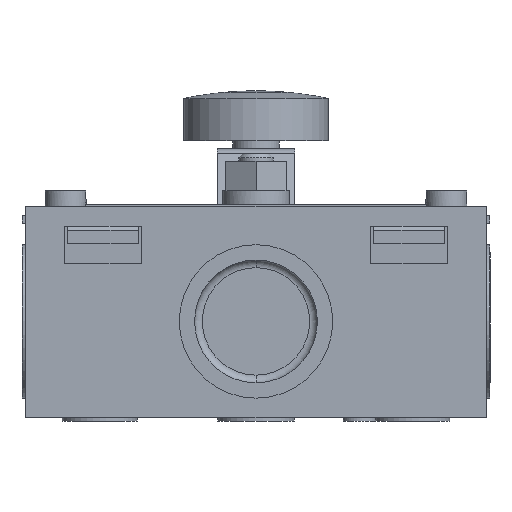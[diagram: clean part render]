
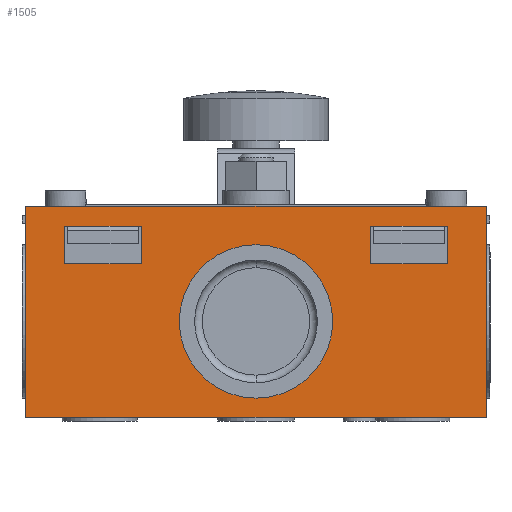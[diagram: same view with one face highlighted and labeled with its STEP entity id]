
A CAD part, front view. The second image highlights one B-rep face of the part: STEP entity #1505.
In plain terms, the highlighted planar face has unit normal (0, -1, 0).
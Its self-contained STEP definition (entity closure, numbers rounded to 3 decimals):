
#623 = AXIS2_PLACEMENT_3D ( 'NONE', #8462, #8463, #8464 ) ;
#626 = FACE_OUTER_BOUND ( 'NONE', #9149, .T. ) ;
#627 = FACE_BOUND ( 'NONE', #9152, .T. ) ;
#633 = FACE_BOUND ( 'NONE', #9151, .T. ) ;
#640 = FACE_BOUND ( 'NONE', #9150, .T. ) ;
#700 = VECTOR ( 'NONE', #3602, 1000. ) ;
#712 = VECTOR ( 'NONE', #3479, 1000. ) ;
#1505 = ADVANCED_FACE ( 'NONE', ( #626, #640, #633, #627 ), #8461, .F. ) ;
#3477 = LINE ( 'NONE', #3478, #712 ) ;
#3478 = CARTESIAN_POINT ( 'NONE',  ( -30., -83.5, -13.75 ) ) ;
#3479 = DIRECTION ( 'NONE',  ( 1., 0., 0. ) ) ;
#3600 = LINE ( 'NONE', #3601, #700 ) ;
#3601 = CARTESIAN_POINT ( 'NONE',  ( -30., -83.5, -13.75 ) ) ;
#3602 = DIRECTION ( 'NONE',  ( 0., 0., -1. ) ) ;
#3608 = CARTESIAN_POINT ( 'NONE',  ( 0., -83.5, -1.25 ) ) ;
#3636 = LINE ( 'NONE', #3637, #8075 ) ;
#3637 = CARTESIAN_POINT ( 'NONE',  ( -30., -83.5, 13.75 ) ) ;
#3638 = DIRECTION ( 'NONE',  ( -1., 0., 0. ) ) ;
#3639 = LINE ( 'NONE', #3640, #8059 ) ;
#3640 = CARTESIAN_POINT ( 'NONE',  ( 30., -83.5, -13.75 ) ) ;
#3641 = DIRECTION ( 'NONE',  ( 0., 0., 1. ) ) ;
#3642 = LINE ( 'NONE', #3643, #8074 ) ;
#3643 = CARTESIAN_POINT ( 'NONE',  ( 24.95, -83.5, 11.15 ) ) ;
#3644 = DIRECTION ( 'NONE',  ( 0., 0., -1. ) ) ;
#3645 = LINE ( 'NONE', #3646, #8080 ) ;
#3646 = CARTESIAN_POINT ( 'NONE',  ( 24.95, -83.5, 11.15 ) ) ;
#3647 = DIRECTION ( 'NONE',  ( -1., 0., 0. ) ) ;
#3648 = LINE ( 'NONE', #3649, #8071 ) ;
#3649 = CARTESIAN_POINT ( 'NONE',  ( 24.95, -83.5, 6.25 ) ) ;
#3650 = DIRECTION ( 'NONE',  ( -1., 0., 0. ) ) ;
#3651 = LINE ( 'NONE', #3652, #8090 ) ;
#3652 = CARTESIAN_POINT ( 'NONE',  ( -24.95, -83.5, 11.15 ) ) ;
#3653 = DIRECTION ( 'NONE',  ( 0., 0., -1. ) ) ;
#3654 = LINE ( 'NONE', #3655, #8076 ) ;
#3655 = CARTESIAN_POINT ( 'NONE',  ( 14.95, -83.5, 11.15 ) ) ;
#3656 = DIRECTION ( 'NONE',  ( 0., 0., -1. ) ) ;
#3657 = LINE ( 'NONE', #3658, #8040 ) ;
#3658 = CARTESIAN_POINT ( 'NONE',  ( -24.95, -83.5, 6.25 ) ) ;
#3659 = DIRECTION ( 'NONE',  ( 1., 0., 0. ) ) ;
#3660 = LINE ( 'NONE', #3661, #8091 ) ;
#3661 = CARTESIAN_POINT ( 'NONE',  ( -24.95, -83.5, 11.15 ) ) ;
#3662 = DIRECTION ( 'NONE',  ( 1., 0., 0. ) ) ;
#3663 = LINE ( 'NONE', #3664, #8070 ) ;
#3664 = CARTESIAN_POINT ( 'NONE',  ( -14.95, -83.5, 11.15 ) ) ;
#3665 = DIRECTION ( 'NONE',  ( 0., 0., -1. ) ) ;
#3666 = DIRECTION ( 'NONE',  ( 0., -1., 0. ) ) ;
#3667 = DIRECTION ( 'NONE',  ( 0., 0., 1. ) ) ;
#3978 = CARTESIAN_POINT ( 'NONE',  ( 0., -83.5, -11.25 ) ) ;
#3984 = CARTESIAN_POINT ( 'NONE',  ( 0., -83.5, 8.75 ) ) ;
#5461 = EDGE_CURVE ( 'NONE', #8816, #8815, #3477, .T. ) ;
#5502 = EDGE_CURVE ( 'NONE', #8897, #8816, #3600, .T. ) ;
#5514 = EDGE_CURVE ( 'NONE', #8977, #8897, #3636, .T. ) ;
#5515 = EDGE_CURVE ( 'NONE', #8815, #8977, #3639, .T. ) ;
#5516 = EDGE_CURVE ( 'NONE', #8978, #8981, #3642, .T. ) ;
#5517 = EDGE_CURVE ( 'NONE', #8978, #8979, #3645, .T. ) ;
#5518 = EDGE_CURVE ( 'NONE', #8981, #8982, #3648, .T. ) ;
#5519 = EDGE_CURVE ( 'NONE', #8985, #8983, #3651, .T. ) ;
#5520 = EDGE_CURVE ( 'NONE', #8979, #8982, #3654, .T. ) ;
#5521 = EDGE_CURVE ( 'NONE', #8983, #8984, #3657, .T. ) ;
#5522 = EDGE_CURVE ( 'NONE', #8985, #8986, #3660, .T. ) ;
#5523 = EDGE_CURVE ( 'NONE', #8986, #8984, #3663, .T. ) ;
#5524 = EDGE_CURVE ( 'NONE', #6181, #6175, #7167, .T. ) ;
#6175 = VERTEX_POINT ( 'NONE', #3978 ) ;
#6181 = VERTEX_POINT ( 'NONE', #3984 ) ;
#6595 = ORIENTED_EDGE ( 'NONE', *, *, #5515, .T. ) ;
#6597 = ORIENTED_EDGE ( 'NONE', *, *, #5502, .T. ) ;
#6598 = ORIENTED_EDGE ( 'NONE', *, *, #5514, .T. ) ;
#6599 = ORIENTED_EDGE ( 'NONE', *, *, #5461, .T. ) ;
#6600 = ORIENTED_EDGE ( 'NONE', *, *, #5517, .F. ) ;
#6601 = ORIENTED_EDGE ( 'NONE', *, *, #5518, .T. ) ;
#6602 = ORIENTED_EDGE ( 'NONE', *, *, #5516, .T. ) ;
#6603 = ORIENTED_EDGE ( 'NONE', *, *, #5520, .F. ) ;
#6604 = ORIENTED_EDGE ( 'NONE', *, *, #5521, .F. ) ;
#6605 = ORIENTED_EDGE ( 'NONE', *, *, #5522, .T. ) ;
#6606 = ORIENTED_EDGE ( 'NONE', *, *, #5519, .F. ) ;
#6607 = ORIENTED_EDGE ( 'NONE', *, *, #5523, .T. ) ;
#6609 = ORIENTED_EDGE ( 'NONE', *, *, #5524, .F. ) ;
#6610 = ORIENTED_EDGE ( 'NONE', *, *, #9716, .F. ) ;
#7167 = CIRCLE ( 'NONE', #8088, 10. ) ;
#7281 = CIRCLE ( 'NONE', #9563, 10. ) ;
#8040 = VECTOR ( 'NONE', #3659, 1000. ) ;
#8059 = VECTOR ( 'NONE', #3641, 1000. ) ;
#8070 = VECTOR ( 'NONE', #3665, 1000. ) ;
#8071 = VECTOR ( 'NONE', #3650, 1000. ) ;
#8074 = VECTOR ( 'NONE', #3644, 1000. ) ;
#8075 = VECTOR ( 'NONE', #3638, 1000. ) ;
#8076 = VECTOR ( 'NONE', #3656, 1000. ) ;
#8080 = VECTOR ( 'NONE', #3647, 1000. ) ;
#8088 = AXIS2_PLACEMENT_3D ( 'NONE', #3608, #3666, #3667 ) ;
#8090 = VECTOR ( 'NONE', #3653, 1000. ) ;
#8091 = VECTOR ( 'NONE', #3662, 1000. ) ;
#8461 = PLANE ( 'NONE',  #623 ) ;
#8462 = CARTESIAN_POINT ( 'NONE',  ( 0., -83.5, 0. ) ) ;
#8463 = DIRECTION ( 'NONE',  ( 0., 1., 0. ) ) ;
#8464 = DIRECTION ( 'NONE',  ( 0., 0., 1. ) ) ;
#8815 = VERTEX_POINT ( 'NONE', #9801 ) ;
#8816 = VERTEX_POINT ( 'NONE', #9802 ) ;
#8897 = VERTEX_POINT ( 'NONE', #9883 ) ;
#8977 = VERTEX_POINT ( 'NONE', #9963 ) ;
#8978 = VERTEX_POINT ( 'NONE', #9964 ) ;
#8979 = VERTEX_POINT ( 'NONE', #9965 ) ;
#8981 = VERTEX_POINT ( 'NONE', #9967 ) ;
#8982 = VERTEX_POINT ( 'NONE', #9968 ) ;
#8983 = VERTEX_POINT ( 'NONE', #9969 ) ;
#8984 = VERTEX_POINT ( 'NONE', #9970 ) ;
#8985 = VERTEX_POINT ( 'NONE', #9971 ) ;
#8986 = VERTEX_POINT ( 'NONE', #9972 ) ;
#9149 = EDGE_LOOP ( 'NONE', ( #6595, #6598, #6597, #6599 ) ) ;
#9150 = EDGE_LOOP ( 'NONE', ( #6600, #6602, #6601, #6603 ) ) ;
#9151 = EDGE_LOOP ( 'NONE', ( #6604, #6606, #6605, #6607 ) ) ;
#9152 = EDGE_LOOP ( 'NONE', ( #6609, #6610 ) ) ;
#9563 = AXIS2_PLACEMENT_3D ( 'NONE', #10209, #10210, #10211 ) ;
#9716 = EDGE_CURVE ( 'NONE', #6175, #6181, #7281, .T. ) ;
#9801 = CARTESIAN_POINT ( 'NONE',  ( 30., -83.5, -13.75 ) ) ;
#9802 = CARTESIAN_POINT ( 'NONE',  ( -30., -83.5, -13.75 ) ) ;
#9883 = CARTESIAN_POINT ( 'NONE',  ( -30., -83.5, 13.75 ) ) ;
#9963 = CARTESIAN_POINT ( 'NONE',  ( 30., -83.5, 13.75 ) ) ;
#9964 = CARTESIAN_POINT ( 'NONE',  ( 24.95, -83.5, 11.15 ) ) ;
#9965 = CARTESIAN_POINT ( 'NONE',  ( 14.95, -83.5, 11.15 ) ) ;
#9967 = CARTESIAN_POINT ( 'NONE',  ( 24.95, -83.5, 6.25 ) ) ;
#9968 = CARTESIAN_POINT ( 'NONE',  ( 14.95, -83.5, 6.25 ) ) ;
#9969 = CARTESIAN_POINT ( 'NONE',  ( -24.95, -83.5, 6.25 ) ) ;
#9970 = CARTESIAN_POINT ( 'NONE',  ( -14.95, -83.5, 6.25 ) ) ;
#9971 = CARTESIAN_POINT ( 'NONE',  ( -24.95, -83.5, 11.15 ) ) ;
#9972 = CARTESIAN_POINT ( 'NONE',  ( -14.95, -83.5, 11.15 ) ) ;
#10209 = CARTESIAN_POINT ( 'NONE',  ( 0., -83.5, -1.25 ) ) ;
#10210 = DIRECTION ( 'NONE',  ( 0., -1., 0. ) ) ;
#10211 = DIRECTION ( 'NONE',  ( 0., 0., 1. ) ) ;
